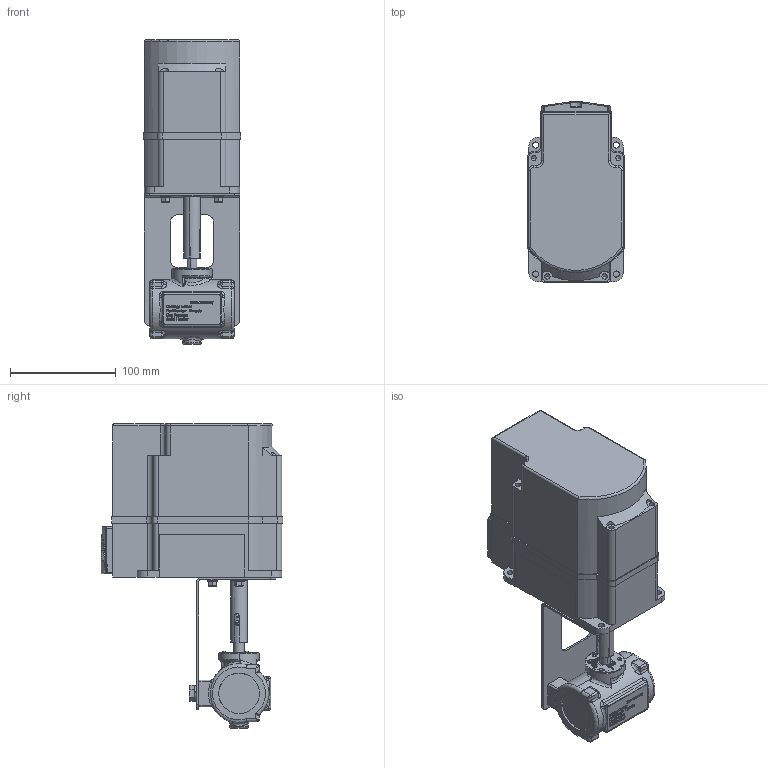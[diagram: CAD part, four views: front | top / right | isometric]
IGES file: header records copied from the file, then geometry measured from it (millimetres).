
Global section: file name: No Iges File Name specified; native system: AutoDesk Inventor R12.0; preprocessor: AutoDesk Inventor Iges Exporter R12.0; date: 20110328.091109; units: millimetre
Bounding box: 92 x 171.99 x 288 mm (x, y, z)
Volume: 2105068.3 mm3; surface area: 170412.3 mm2
Topology: 1 solids, 15 shells, 2852 faces, 7626 edges, 4959 vertices
Faces by surface type: plane 1473, bspline 1016, cylinder 186, revolution 97, cone 47, torus 23, sphere 10
Full cylindrical faces by diameter (mm): 9.2 x3, 14.8 x2
